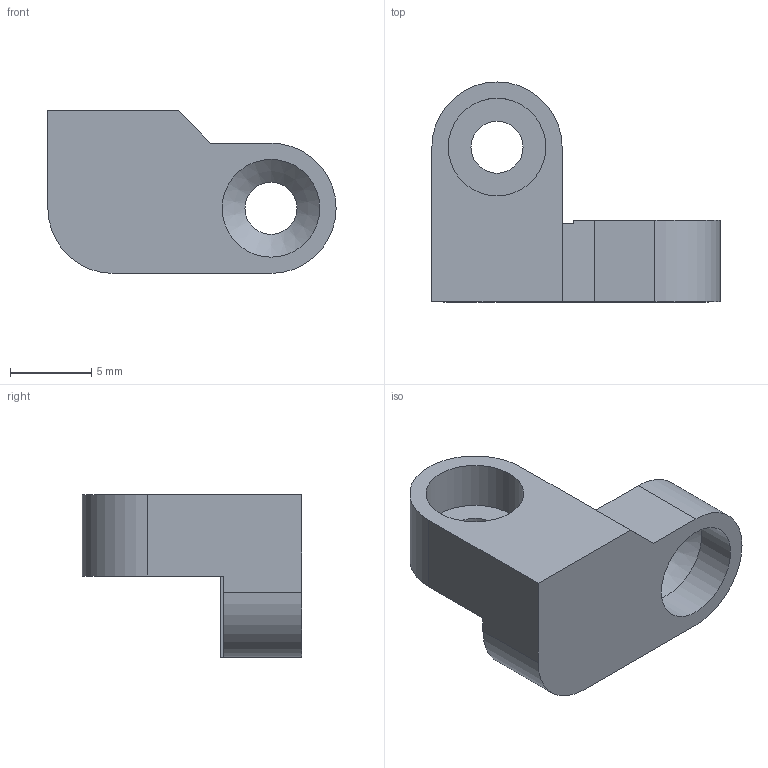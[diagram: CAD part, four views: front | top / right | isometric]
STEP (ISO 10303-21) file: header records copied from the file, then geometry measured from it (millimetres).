
FILE_DESCRIPTION(/* description */ (''),/* implementation_level */ '2;1');
FILE_NAME(/* name */ '1-03-1 Bottom fanholder left.step',/* time_stamp */ '2025-05-10T21:33:26+02:00',/* author */ (''),/* organization */ (''),/* preprocessor_version */ 'ST-DEVELOPER v20.1',/* originating_system */ 'Autodesk Translation Framework v14.4.0.0',/* authorisation */ '');
FILE_SCHEMA (('AUTOMOTIVE_DESIGN { 1 0 10303 214 3 1 1 }'));
Length unit declared in the file: millimetre
Products named in the file (1): 1-03-1 Bottom fanholder left
Bounding box: 17.7 x 13.5 x 10 mm (x, y, z)
Volume: 841.1 mm3; surface area: 847.1 mm2
Topology: 1 solids, 1 shells, 20 faces, 49 edges, 32 vertices
Faces by surface type: plane 12, cylinder 7, cone 1
Full cylindrical faces by diameter (mm): 3.2 x2, 6 x2
Entity records: 640 total; most frequent: DIRECTION 106, CARTESIAN_POINT 102, ORIENTED_EDGE 98, EDGE_CURVE 49, AXIS2_PLACEMENT_3D 36, LINE 34, VECTOR 34, VERTEX_POINT 32
